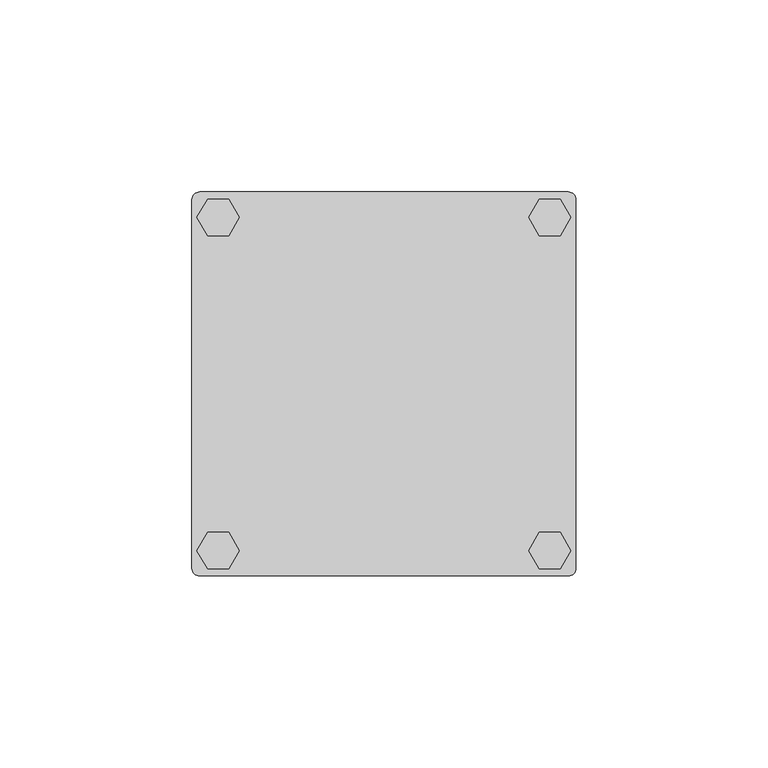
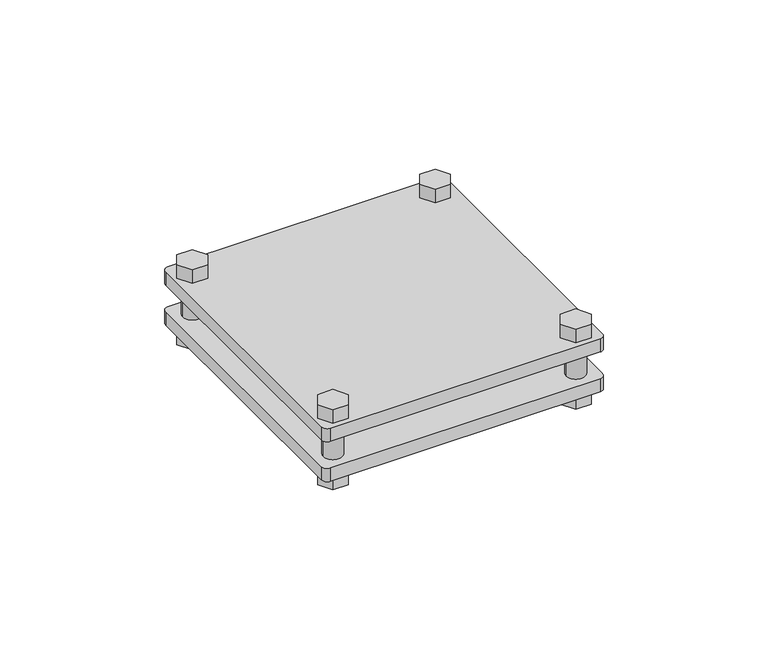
"""IFC4 building model written with IfcOpenShell, lengths in millimetres: proxy geometry, КНС_СоединительПолосаПолоса_DKC : NG3106CU_Медь_100х100 мм."""

from ifc_helpers import new_model, si_unit, point, frame, frame_2d, origin, place, context, project, spatial, polyline, circle_curve, trimmed, segment, composite_curve, outline, extrude, source, transform, mapped, element, save


def security_devices_21ef5ac7(model_context):
    return source(origin(), model_context, "Body", "SweptSolid", [
        extrude(outline(composite_curve([segment(trimmed(circle_curve(frame_2d((-43.2121057, 43.28125)), 3.4209609), [point((-46.6330666, 43.28125))], [point((-39.7911448, 43.28125))], False, "CARTESIAN"), True, "CONTINUOUS"), segment(trimmed(circle_curve(frame_2d((-43.2121057, 43.28125)), 3.4209609), [point((-39.7911448, 43.28125))], [point((-46.6330666, 43.28125))], False, "CARTESIAN"), True, "CONTINUOUS")], self_intersect=False)), frame((0.0, 0.0, -10.0), z_axis=(0.0, 0.0, 1.0), x_axis=(1.0, 0.0, 0.0)), (0.0, 0.0, 1.0), 20.0),
        extrude(outline(composite_curve([segment(trimmed(circle_curve(frame_2d((43.2121057, 43.28125)), 3.4209609), [point((39.7911448, 43.28125))], [point((46.6330666, 43.28125))], False, "CARTESIAN"), True, "CONTINUOUS"), segment(trimmed(circle_curve(frame_2d((43.2121057, 43.28125)), 3.4209609), [point((46.6330666, 43.28125))], [point((39.7911448, 43.28125))], False, "CARTESIAN"), True, "CONTINUOUS")], self_intersect=False)), frame((0.0, 0.0, -10.0), z_axis=(0.0, 0.0, 1.0), x_axis=(1.0, 0.0, 0.0)), (0.0, 0.0, 1.0), 20.0),
        extrude(outline(composite_curve([segment(trimmed(circle_curve(frame_2d((-43.2121057, -43.28125)), 3.4209609), [point((-46.6330666, -43.28125))], [point((-39.7911448, -43.28125))], False, "CARTESIAN"), True, "CONTINUOUS"), segment(trimmed(circle_curve(frame_2d((-43.2121057, -43.28125)), 3.4209609), [point((-39.7911448, -43.28125))], [point((-46.6330666, -43.28125))], False, "CARTESIAN"), True, "CONTINUOUS")], self_intersect=False)), frame((0.0, 0.0, -10.0), z_axis=(0.0, 0.0, 1.0), x_axis=(1.0, 0.0, 0.0)), (0.0, 0.0, 1.0), 20.0),
        extrude(outline(composite_curve([segment(trimmed(circle_curve(frame_2d((43.2121057, -43.28125)), 3.4209609), [point((39.7911448, -43.28125))], [point((46.6330666, -43.28125))], False, "CARTESIAN"), True, "CONTINUOUS"), segment(trimmed(circle_curve(frame_2d((43.2121057, -43.28125)), 3.4209609), [point((46.6330666, -43.28125))], [point((39.7911448, -43.28125))], False, "CARTESIAN"), True, "CONTINUOUS")], self_intersect=False)), frame((0.0, 0.0, -10.0), z_axis=(0.0, 0.0, 1.0), x_axis=(1.0, 0.0, 0.0)), (0.0, 0.0, 1.0), 20.0),
        extrude(outline(polyline([(-48.6996224, 43.3883083), (-45.955864, 48.1406371), (-40.4683473, 48.1406371), (-37.724589, 43.3883083), (-40.4683473, 38.6359794), (-45.955864, 38.6359794), (-48.6996224, 43.3883083)])), frame((0.0, 0.0, -15.0), z_axis=(0.0, 0.0, 1.0), x_axis=(1.0, 0.0, 0.0)), (0.0, 0.0, 1.0), 5.0),
        extrude(outline(polyline([(48.6996224, 43.3883083), (45.955864, 38.6359794), (40.4683473, 38.6359794), (37.724589, 43.3883083), (40.4683473, 48.1406371), (45.955864, 48.1406371), (48.6996224, 43.3883083)])), frame((0.0, 0.0, -15.0), z_axis=(0.0, 0.0, 1.0), x_axis=(1.0, 0.0, 0.0)), (0.0, 0.0, 1.0), 5.0),
        extrude(outline(polyline([(-48.6996224, -43.3883083), (-45.955864, -38.6359794), (-40.4683473, -38.6359794), (-37.724589, -43.3883083), (-40.4683473, -48.1406371), (-45.955864, -48.1406371), (-48.6996224, -43.3883083)])), frame((0.0, 0.0, -15.0), z_axis=(0.0, 0.0, 1.0), x_axis=(1.0, 0.0, 0.0)), (0.0, 0.0, 1.0), 5.0),
        extrude(outline(polyline([(48.6996224, -43.3883083), (45.955864, -48.1406371), (40.4683473, -48.1406371), (37.724589, -43.3883083), (40.4683473, -38.6359794), (45.955864, -38.6359794), (48.6996224, -43.3883083)])), frame((0.0, 0.0, -15.0), z_axis=(0.0, 0.0, 1.0), x_axis=(1.0, 0.0, 0.0)), (0.0, 0.0, 1.0), 5.0),
        extrude(outline(polyline([(-48.6996224, 43.3883083), (-45.955864, 48.1406371), (-40.4683473, 48.1406371), (-37.724589, 43.3883083), (-40.4683473, 38.6359794), (-45.955864, 38.6359794), (-48.6996224, 43.3883083)])), frame((0.0, 0.0, 10.0), z_axis=(0.0, 0.0, 1.0), x_axis=(1.0, 0.0, 0.0)), (0.0, 0.0, 1.0), 5.0),
        extrude(outline(polyline([(48.6996224, 43.3883083), (45.955864, 38.6359794), (40.4683473, 38.6359794), (37.724589, 43.3883083), (40.4683473, 48.1406371), (45.955864, 48.1406371), (48.6996224, 43.3883083)])), frame((0.0, 0.0, 10.0), z_axis=(0.0, 0.0, 1.0), x_axis=(1.0, 0.0, 0.0)), (0.0, 0.0, 1.0), 5.0),
        extrude(outline(polyline([(-48.6996224, -43.3883083), (-45.955864, -38.6359794), (-40.4683473, -38.6359794), (-37.724589, -43.3883083), (-40.4683473, -48.1406371), (-45.955864, -48.1406371), (-48.6996224, -43.3883083)])), frame((0.0, 0.0, 10.0), z_axis=(0.0, 0.0, 1.0), x_axis=(1.0, 0.0, 0.0)), (0.0, 0.0, 1.0), 5.0),
        extrude(outline(polyline([(48.6996224, -43.3883083), (45.955864, -48.1406371), (40.4683473, -48.1406371), (37.724589, -43.3883083), (40.4683473, -38.6359794), (45.955864, -38.6359794), (48.6996224, -43.3883083)])), frame((0.0, 0.0, 10.0), z_axis=(0.0, 0.0, 1.0), x_axis=(1.0, 0.0, 0.0)), (0.0, 0.0, 1.0), 5.0),
        extrude(outline(composite_curve([segment(trimmed(circle_curve(frame_2d((48.0, 48.0)), 2.0), [point((48.0, 50.0))], [point((50.0, 48.0))], False, "CARTESIAN"), True, "CONTINUOUS"), segment(polyline([(50.0, 48.0), (50.0, -48.0)]), True, "CONTINUOUS"), segment(trimmed(circle_curve(frame_2d((48.0, -48.0)), 2.0), [point((50.0, -48.0))], [point((48.0, -50.0))], False, "CARTESIAN"), True, "CONTINUOUS"), segment(polyline([(48.0, -50.0), (-48.0, -50.0)]), True, "CONTINUOUS"), segment(trimmed(circle_curve(frame_2d((-48.0, -48.0)), 2.0), [point((-48.0, -50.0))], [point((-50.0, -48.0))], False, "CARTESIAN"), True, "CONTINUOUS"), segment(polyline([(-50.0, -48.0), (-50.0, 48.0)]), True, "CONTINUOUS"), segment(trimmed(circle_curve(frame_2d((-48.0, 48.0)), 2.0), [point((-50.0, 48.0))], [point((-48.0, 50.0))], False, "CARTESIAN"), True, "CONTINUOUS"), segment(polyline([(-48.0, 50.0), (48.0, 50.0)]), True, "CONTINUOUS")], self_intersect=False)), frame((0.0, 0.0, -10.0), z_axis=(0.0, 0.0, 1.0), x_axis=(1.0, 0.0, 0.0)), (0.0, 0.0, 1.0), 5.0),
        extrude(outline(composite_curve([segment(trimmed(circle_curve(frame_2d((48.0, 48.0)), 2.0), [point((48.0, 50.0))], [point((50.0, 48.0))], False, "CARTESIAN"), True, "CONTINUOUS"), segment(polyline([(50.0, 48.0), (50.0, -48.0)]), True, "CONTINUOUS"), segment(trimmed(circle_curve(frame_2d((48.0, -48.0)), 2.0), [point((50.0, -48.0))], [point((48.0, -50.0))], False, "CARTESIAN"), True, "CONTINUOUS"), segment(polyline([(48.0, -50.0), (-48.0, -50.0)]), True, "CONTINUOUS"), segment(trimmed(circle_curve(frame_2d((-48.0, -48.0)), 2.0), [point((-48.0, -50.0))], [point((-50.0, -48.0))], False, "CARTESIAN"), True, "CONTINUOUS"), segment(polyline([(-50.0, -48.0), (-50.0, 48.0)]), True, "CONTINUOUS"), segment(trimmed(circle_curve(frame_2d((-48.0, 48.0)), 2.0), [point((-50.0, 48.0))], [point((-48.0, 50.0))], False, "CARTESIAN"), True, "CONTINUOUS"), segment(polyline([(-48.0, 50.0), (48.0, 50.0)]), True, "CONTINUOUS")], self_intersect=False)), frame((0.0, 0.0, 5.0), z_axis=(0.0, 0.0, 1.0), x_axis=(1.0, 0.0, 0.0)), (0.0, 0.0, 1.0), 5.0),
    ])


if __name__ == "__main__":
    model = new_model("IFC4")
    model_context = context("Model", 3, world=origin())
    ifc_project = project(units=[si_unit("LENGTHUNIT", "METRE", prefix="MILLI")], contexts=[model_context])
    site = spatial("IfcSite", under=ifc_project)
    building = spatial("IfcBuilding", under=site)
    placement = place(None, origin())
    security_devices_shape = security_devices_21ef5ac7(model_context)
    element("IfcBuildingElementProxy", 1, Name="КНС_СоединительПолосаПолоса_DKC : NG3106CU_Медь_100х100 мм", ObjectType="КНС_СоединительПолосаПолоса_DKC : NG3106CU_Медь_100х100 мм", at=placement, inside=building, context=model_context, shape_type="MappedRepresentation", body=[
        mapped(security_devices_shape, transform((0.0, 0.0, 0.0), x_axis=(1.0, 0.0, 0.0), y_axis=(0.0, 1.0, 0.0), z_axis=(0.0, 0.0, 1.0))),
    ])
    save(model, "model.ifc")
